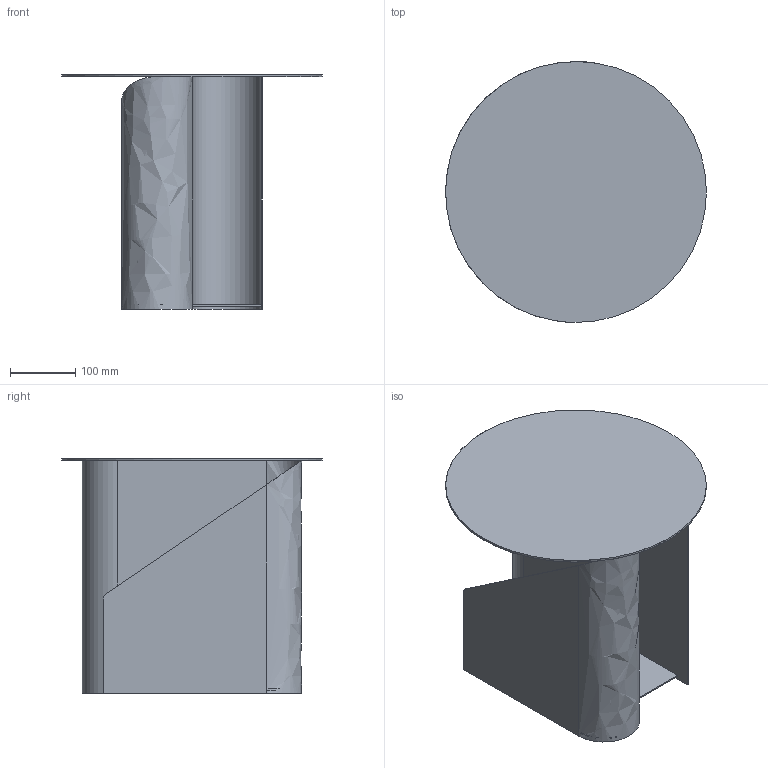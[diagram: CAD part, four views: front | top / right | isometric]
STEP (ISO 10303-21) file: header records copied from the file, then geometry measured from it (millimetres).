
FILE_DESCRIPTION(/* description */ (''),/* implementation_level */ '2;1');
FILE_NAME(/* name */ 'Sentrum side table',/* time_stamp */ '2019-09-26T09:55:24+02:00',/* author */ (''),/* organization */ (''),/* preprocessor_version */ 'ST-DEVELOPER v15',/* originating_system */ '',/* authorisation */ '');
FILE_SCHEMA (('AUTOMOTIVE_DESIGN'));
Length unit declared in the file: millimetre
Products named in the file (1): Document
Bounding box: 399.99 x 400 x 360 mm (x, y, z)
Surface area: 1081691.1 mm2 (no closed solid volume)
Topology: 0 solids, 38 shells, 39 faces, 164 edges, 162 vertices
Faces by surface type: bspline 25, plane 14
Entity records: 2057 total; most frequent: CARTESIAN_POINT 926, ORIENTED_EDGE 166, EDGE_CURVE 164, VERTEX_POINT 162, ADVANCED_FACE 39, FACE_OUTER_BOUND 39, EDGE_LOOP 39, COLOUR_RGB 38
